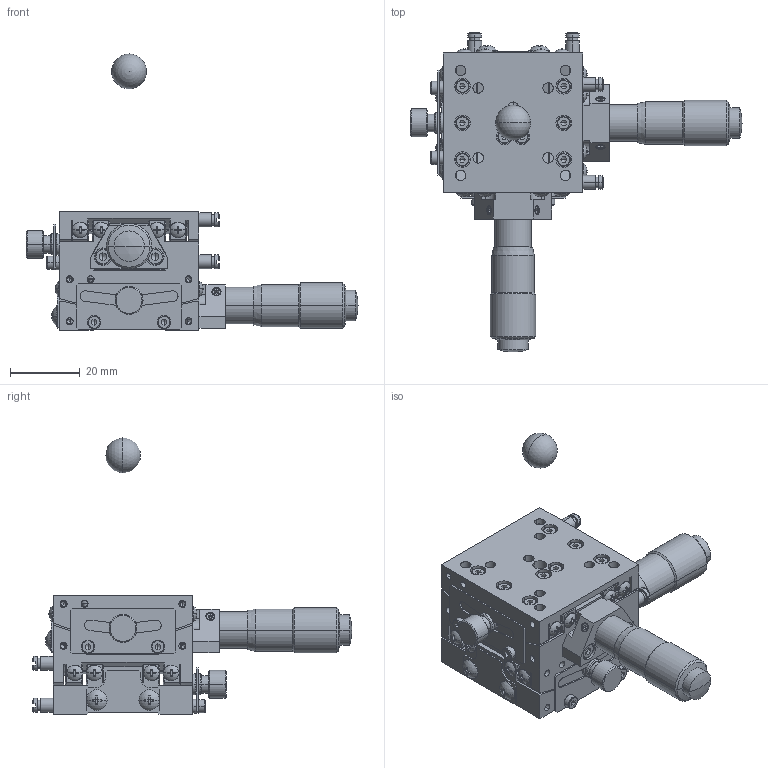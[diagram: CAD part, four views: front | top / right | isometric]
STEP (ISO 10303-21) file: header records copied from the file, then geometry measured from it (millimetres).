
FILE_DESCRIPTION (( 'STEP AP203' ), '1' );
FILE_NAME ('ST04A-C1S-RRR.STEP', '2010-01-28T07:54:15', ( ' ' ), ( ' ' ), 'SwSTEP 2.0', 'SolidWorks 2009', '' );
FILE_SCHEMA (( 'CONFIG_CONTROL_DESIGN' ));
Products named in the file (12): MICROMETERHEAD(MHS4-13)spindle-3; DP002890-1010-00-Part-1-1; MICROMETERHEAD(MHS4-13)spindle-2; DP002892-1010-00-Part-1-1; ST04A-C1S-RRR.sldasm-Part-1; ST04A-C1S-RRR; ST04A-C1T-R(PL); DP002890-1010-00-1; ST04A-C1M-R(PL); DP002892-1020-00-1; DP002892-1020-00-Part-1-1; DP002892-1010-00-1
Assembly tree (11 placements, depth 4):
  ST04A-C1S-RRR
    ST04A-C1T-R(PL)
      MICROMETERHEAD(MHS4-13)spindle-2
      DP002890-1010-00-1
        DP002890-1010-00-Part-1-1
    ST04A-C1M-R(PL)
      DP002892-1020-00-1
        DP002892-1020-00-Part-1-1
      MICROMETERHEAD(MHS4-13)spindle-3
      DP002892-1010-00-1
        DP002892-1010-00-Part-1-1
    ST04A-C1S-RRR.sldasm-Part-1
Bounding box: 95 x 91.5 x 79 mm (x, y, z)
Volume: 55995.5 mm3; surface area: 45067.2 mm2
Topology: 6 solids, 90 shells, 3300 faces, 7883 edges, 4678 vertices
Faces by surface type: plane 1436, cylinder 1056, cone 742, sphere 50, torus 16
Entity records: 99511 total; most frequent: CARTESIAN_POINT 21566, DIRECTION 16857, ORIENTED_EDGE 15348, EDGE_CURVE 7674, AXIS2_PLACEMENT_3D 6508, VERTEX_POINT 4675, VECTOR 3841, LINE 3841
